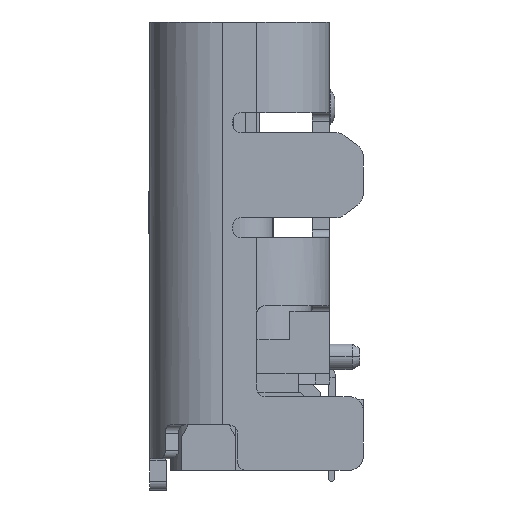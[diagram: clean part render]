
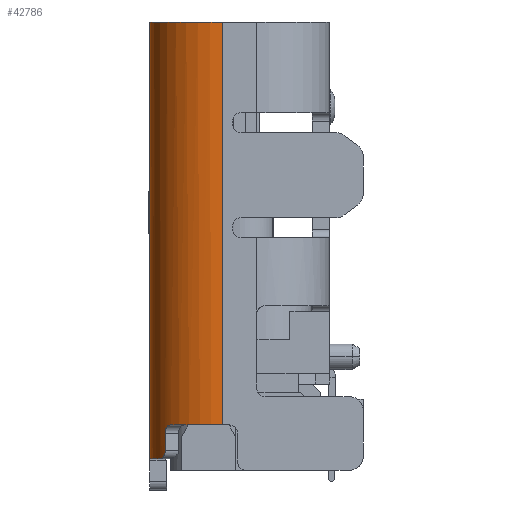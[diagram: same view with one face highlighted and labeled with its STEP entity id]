
A CAD part, front view. The second image highlights one B-rep face of the part: STEP entity #42786.
In plain terms, the highlighted cylindrical face has radius 1.28 mm (diameter 2.56 mm), a partial arc.
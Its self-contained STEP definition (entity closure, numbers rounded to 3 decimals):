
#33082=CARTESIAN_POINT('',(0.,-3.19,6.4));
#33083=DIRECTION('',(0.,0.,1.));
#33084=DIRECTION('',(-1.,0.,0.));
#33085=AXIS2_PLACEMENT_3D('',#33082,#33083,#33084);
#33124=CARTESIAN_POINT('',(-1.096,-3.851,-1.3));
#33125=CARTESIAN_POINT('',(-1.088,-3.865,-1.3));
#33126=CARTESIAN_POINT('',(-1.071,-3.891,
-1.295));
#33127=CARTESIAN_POINT('',(-1.047,-3.926,
-1.273));
#33128=CARTESIAN_POINT('',(-1.027,-3.954,
-1.24));
#33129=CARTESIAN_POINT('',(-1.014,-3.971,
-1.197));
#33130=CARTESIAN_POINT('',(-1.011,-3.975,
-1.166));
#33131=CARTESIAN_POINT('',(-1.011,-3.975,-1.15));
#33159=CARTESIAN_POINT('',(0.,-3.19,-0.7));
#33160=DIRECTION('',(0.,0.,1.));
#33161=DIRECTION('',(-0.713,-0.702,0.));
#33162=AXIS2_PLACEMENT_3D('',#33159,#33160,#33161);
#34521=DIRECTION('',(0.,0.,-1.));
#34522=VECTOR('',#34521,0.3);
#34523=CARTESIAN_POINT('',(-1.011,-3.975,
-0.85));
#34524=LINE('',#34523,#34522);
#34525=CARTESIAN_POINT('',(-0.912,-4.088,
-0.7));
#34526=CARTESIAN_POINT('',(-0.923,-4.077,
-0.7));
#34527=CARTESIAN_POINT('',(-0.944,-4.055,
-0.705));
#34528=CARTESIAN_POINT('',(-0.973,-4.022,
-0.726));
#34529=CARTESIAN_POINT('',(-0.995,-3.996,
-0.76));
#34530=CARTESIAN_POINT('',(-1.008,-3.979,
-0.804));
#34531=CARTESIAN_POINT('',(-1.011,-3.975,
-0.834));
#34532=CARTESIAN_POINT('',(-1.011,-3.975,
-0.85));
#34534=DIRECTION('',(0.,0.,-1.));
#34535=VECTOR('',#34534,7.1);
#34536=CARTESIAN_POINT('',(0.,-4.47,6.4));
#34537=LINE('',#34536,#34535);
#34538=DIRECTION('',(0.,0.,1.));
#34539=VECTOR('',#34538,7.7);
#34540=CARTESIAN_POINT('',(-1.28,-3.19,-1.3));
#34541=LINE('',#34540,#34539);
#34546=CARTESIAN_POINT('',(0.,-3.19,-1.3));
#34547=DIRECTION('',(0.,0.,1.));
#34548=DIRECTION('',(-1.,0.,0.));
#34549=AXIS2_PLACEMENT_3D('',#34546,#34547,#34548);
#36274=CARTESIAN_POINT('',(-1.28,-3.19,-1.3));
#36275=VERTEX_POINT('',#36274);
#36276=CARTESIAN_POINT('',(-1.28,-3.19,6.4));
#36277=VERTEX_POINT('',#36276);
#36586=CARTESIAN_POINT('',(-1.096,-3.851,-1.3));
#36587=VERTEX_POINT('',#36586);
#36588=VERTEX_POINT('',#33131);
#36648=CARTESIAN_POINT('',(0.,-4.47,6.4));
#36649=VERTEX_POINT('',#36648);
#36650=CARTESIAN_POINT('',(0.,-4.47,-0.7));
#36651=VERTEX_POINT('',#36650);
#36652=CARTESIAN_POINT('',(-0.912,-4.088,
-0.7));
#36653=VERTEX_POINT('',#36652);
#36654=VERTEX_POINT('',#34532);
#42770=CARTESIAN_POINT('',(0.,-3.19,6.554));
#42771=DIRECTION('',(0.,0.,-1.));
#42772=DIRECTION('',(0.,-1.,0.));
#42773=AXIS2_PLACEMENT_3D('',#42770,#42771,#42772);
#42774=CYLINDRICAL_SURFACE('',#42773,1.28);
#42775=ORIENTED_EDGE('',*,*,#40738,.T.);
#42776=ORIENTED_EDGE('',*,*,#40756,.F.);
#42777=ORIENTED_EDGE('',*,*,#40768,.F.);
#42778=ORIENTED_EDGE('',*,*,#40784,.T.);
#42779=ORIENTED_EDGE('',*,*,#40958,.F.);
#42780=ORIENTED_EDGE('',*,*,#40687,.F.);
#42781=ORIENTED_EDGE('',*,*,#37596,.F.);
#42783=ORIENTED_EDGE('',*,*,#42782,.T.);
#42784=EDGE_LOOP('',(#42775,#42776,#42777,#42778,#42779,#42780,#42781,#42783));
#42785=FACE_OUTER_BOUND('',#42784,.F.);
#33086=CIRCLE('',#33085,1.28);
#33132=B_SPLINE_CURVE_WITH_KNOTS('',3,(#33124,#33125,#33126,#33127,#33128,
#33129,#33130,#33131),.UNSPECIFIED.,.F.,.F.,(4,1,1,1,1,4),(0.,0.2,0.4,
0.6,0.8,1.),.UNSPECIFIED.);
#33163=CIRCLE('',#33162,1.28);
#34533=B_SPLINE_CURVE_WITH_KNOTS('',3,(#34525,#34526,#34527,#34528,#34529,
#34530,#34531,#34532),.UNSPECIFIED.,.F.,.F.,(4,1,1,1,1,4),(0.,0.2,0.4,
0.6,0.8,1.),.UNSPECIFIED.);
#34550=CIRCLE('',#34549,1.28);
#37596=EDGE_CURVE('',#36275,#36277,#34541,.T.);
#40687=EDGE_CURVE('',#36277,#36649,#33086,.T.);
#40738=EDGE_CURVE('',#36587,#36588,#33132,.T.);
#40756=EDGE_CURVE('',#36654,#36588,#34524,.T.);
#40768=EDGE_CURVE('',#36653,#36654,#34533,.T.);
#40784=EDGE_CURVE('',#36653,#36651,#33163,.T.);
#40958=EDGE_CURVE('',#36649,#36651,#34537,.T.);
#42782=EDGE_CURVE('',#36275,#36587,#34550,.T.);
#42786=ADVANCED_FACE('',(#42785),#42774,.F.);
